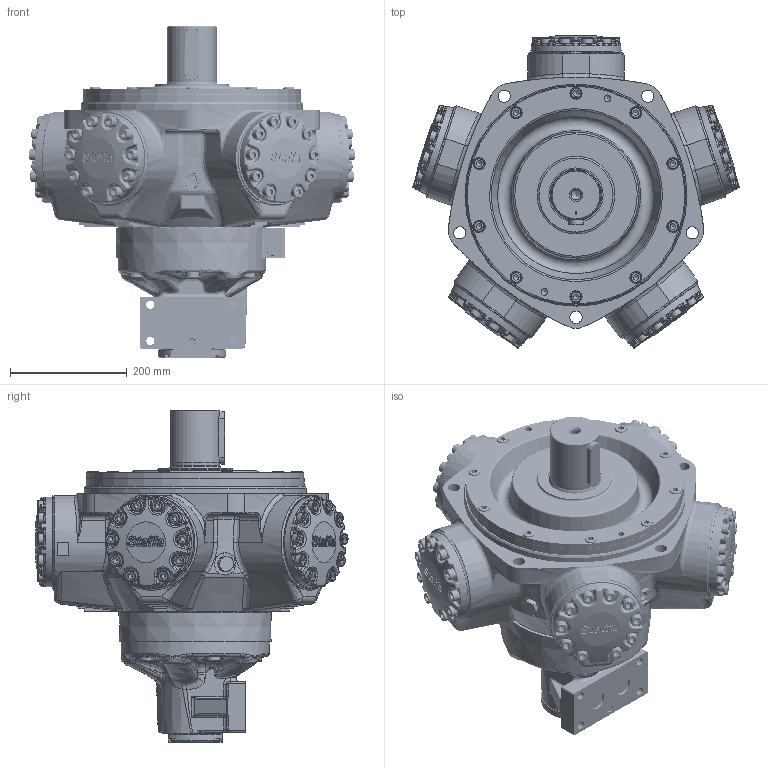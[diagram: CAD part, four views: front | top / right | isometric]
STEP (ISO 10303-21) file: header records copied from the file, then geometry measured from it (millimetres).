
FILE_DESCRIPTION(/* description */ (''),/* implementation_level */ '2;1');
FILE_NAME(/* name */ 'HMC 125_P1_SM3_C_70.stp',/* time_stamp */ '2025-04-23T15:56:44+01:00',/* author */ ('ccallanga'),/* organization */ (''),/* preprocessor_version */ 'ST-DEVELOPER v20',/* originating_system */ 'Autodesk Inventor 2024',/* authorisation */ '');
FILE_SCHEMA (('AUTOMOTIVE_DESIGN { 1 0 10303 214 3 1 1 }'));
Products named in the file (1): 017750 HMC125 WEBSITE ASSEMBLY_Simplify_1
Bounding box: 560.12 x 535.2 x 569.37 mm (x, y, z)
Volume: 41318041.4 mm3; surface area: 1107341.5 mm2
Topology: 1 solids, 1 shells, 4847 faces, 11789 edges, 6967 vertices
Faces by surface type: bspline 1872, plane 1280, cylinder 991, torus 402, cone 177, sphere 125
Full cylindrical faces by diameter (mm): 2.2 x4, 4 x1, 4.134 x4, 5.5 x4, 9.4 x2, 11.328 x4, 11.913 x4, 12 x2, 12.7 x4, 14 x4, 16.51 x1, 17.323 x1, 19 x1, 19.05 x60, 20 x4, 20.637 x60, 21 x5, 23.825 x5, 25 x1, 25.4 x5, 26.92 x2, 32 x2, 38.1 x3, 68.58 x1, 85.001 x1, 88.837 x1, 92.964 x1, 127 x1, 158.75 x5, 254 x2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
Entity records: 221494 total; most frequent: CARTESIAN_POINT 117506, ORIENTED_EDGE 23086, DIRECTION 16471, EDGE_CURVE 11543, VERTEX_POINT 6967, AXIS2_PLACEMENT_3D 6463, EDGE_LOOP 5138, STYLED_ITEM 4848
